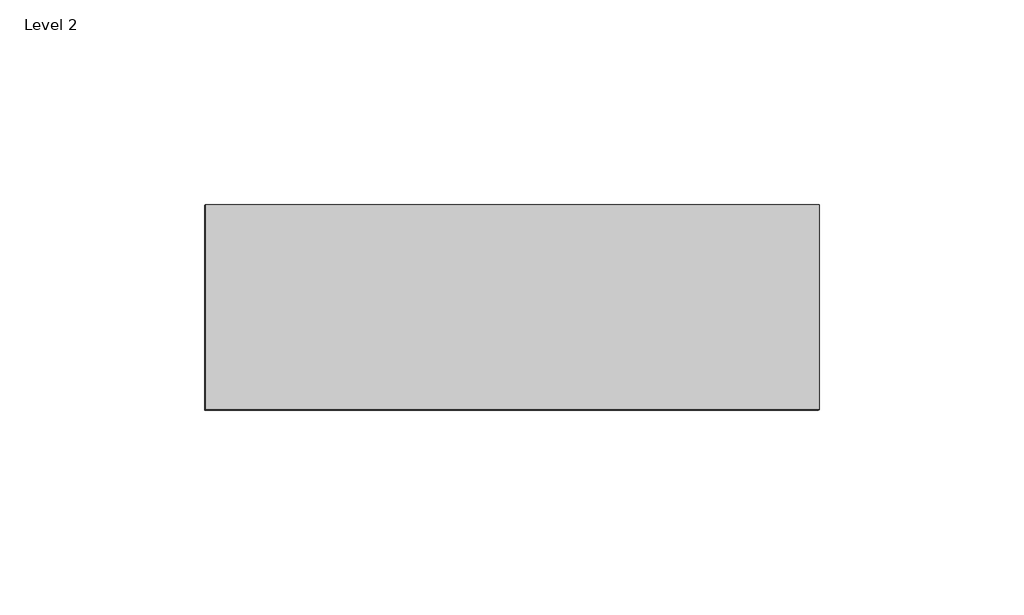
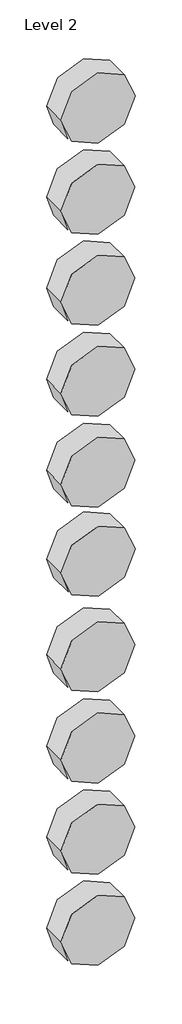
# One storey: 10 proxies.
"""IFC4 building model written with IfcOpenShell, lengths in millimetres."""

from ifc_helpers import new_model, si_unit, origin, place, context, project, spatial, transform, mapped, element, save
from components import materialmodel_materialmodel_17b3a4fc

model = new_model("IFC4")

# Units and contexts
model_context = context("Model", 3, world=origin())
ifc_project = project(units=[si_unit("LENGTHUNIT", "METRE", prefix="MILLI")], contexts=[model_context])

# Site, building, storey
site = spatial("IfcSite", under=ifc_project)
building = spatial("IfcBuilding", under=site)
storey = spatial("IfcBuildingStorey", under=building, Name="Level 2", Elevation=4000.0)

# Proxies
placement = place(None, origin())
materialmodel_materialmodel_shape = materialmodel_materialmodel_17b3a4fc(model_context)
element("IfcBuildingElementProxy", 1, Name="MaterialModel : MaterialModel", ObjectType="MaterialModel : MaterialModel", at=placement, inside=storey, context=model_context, shape_type="MappedRepresentation", body=[
    mapped(materialmodel_materialmodel_shape, transform((-5560.2216872, 2209.4764129, 1242.9437314), x_axis=(1.0, 0.0, 0.0), y_axis=(0.0, 1.0, 0.0), z_axis=(0.0, 0.0, 1.0))),
])
element("IfcBuildingElementProxy", 2, Name="MaterialModel : MaterialModel", ObjectType="MaterialModel : MaterialModel", at=placement, inside=storey, context=model_context, shape_type="MappedRepresentation", body=[
    mapped(materialmodel_materialmodel_shape, transform((-5560.2513951, 2209.4764129, 1047.9733243), x_axis=(1.0, 0.0, 0.0), y_axis=(0.0, 1.0, 0.0), z_axis=(0.0, 0.0, 1.0))),
])
element("IfcBuildingElementProxy", 3, Name="MaterialModel : MaterialModel", ObjectType="MaterialModel : MaterialModel", at=placement, inside=storey, context=model_context, shape_type="MappedRepresentation", body=[
    mapped(materialmodel_materialmodel_shape, transform((-5560.2811031, 2209.4764129, 853.0029172), x_axis=(1.0, 0.0, 0.0), y_axis=(0.0, 1.0, 0.0), z_axis=(0.0, 0.0, 1.0))),
])
element("IfcBuildingElementProxy", 4, Name="MaterialModel : MaterialModel", ObjectType="MaterialModel : MaterialModel", at=placement, inside=storey, context=model_context, shape_type="MappedRepresentation", body=[
    mapped(materialmodel_materialmodel_shape, transform((-5560.3108111, 2209.4764129, 658.0325101), x_axis=(1.0, 0.0, 0.0), y_axis=(0.0, 1.0, 0.0), z_axis=(0.0, 0.0, 1.0))),
])
element("IfcBuildingElementProxy", 5, Name="MaterialModel : MaterialModel", ObjectType="MaterialModel : MaterialModel", at=placement, inside=storey, context=model_context, shape_type="MappedRepresentation", body=[
    mapped(materialmodel_materialmodel_shape, transform((-5560.3405191, 2209.4764129, 463.0621031), x_axis=(1.0, 0.0, 0.0), y_axis=(0.0, 1.0, 0.0), z_axis=(0.0, 0.0, 1.0))),
])
element("IfcBuildingElementProxy", 6, Name="MaterialModel : MaterialModel", ObjectType="MaterialModel : MaterialModel", at=placement, inside=storey, context=model_context, shape_type="MappedRepresentation", body=[
    mapped(materialmodel_materialmodel_shape, transform((-5560.1325632, 2209.4764129, 272.8549526), x_axis=(1.0, 0.0, 0.0), y_axis=(0.0, 1.0, 0.0), z_axis=(0.0, 0.0, 1.0))),
])
element("IfcBuildingElementProxy", 7, Name="MaterialModel : MaterialModel", ObjectType="MaterialModel : MaterialModel", at=placement, inside=storey, context=model_context, shape_type="MappedRepresentation", body=[
    mapped(materialmodel_materialmodel_shape, transform((-5560.3999351, 2209.4764129, 68.091696), x_axis=(1.0, 0.0, 0.0), y_axis=(0.0, 1.0, 0.0), z_axis=(0.0, 0.0, 1.0))),
])
element("IfcBuildingElementProxy", 8, Name="MaterialModel : MaterialModel", ObjectType="MaterialModel : MaterialModel", at=placement, inside=storey, context=model_context, shape_type="MappedRepresentation", body=[
    mapped(materialmodel_materialmodel_shape, transform((-5560.4591553, 2209.4764129, -126.8788853), x_axis=(1.0, 0.0, 0.0), y_axis=(0.0, 1.0, 0.0), z_axis=(0.0, 0.0, 1.0))),
])
element("IfcBuildingElementProxy", 9, Name="MaterialModel : MaterialModel", ObjectType="MaterialModel : MaterialModel", at=placement, inside=storey, context=model_context, shape_type="MappedRepresentation", body=[
    mapped(materialmodel_materialmodel_shape, transform((-5560.4593511, 2209.4764129, -321.8491182), x_axis=(1.0, 0.0, 0.0), y_axis=(0.0, 1.0, 0.0), z_axis=(0.0, 0.0, 1.0))),
])
element("IfcBuildingElementProxy", 10, Name="MaterialModel : MaterialModel", ObjectType="MaterialModel : MaterialModel", at=placement, inside=storey, context=model_context, shape_type="MappedRepresentation", body=[
    mapped(materialmodel_materialmodel_shape, transform((-5560.4571978, 2209.4764129, -516.8193372), x_axis=(1.0, 0.0, 0.0), y_axis=(0.0, 1.0, 0.0), z_axis=(0.0, 0.0, 1.0))),
])

save(model, "model.ifc")
